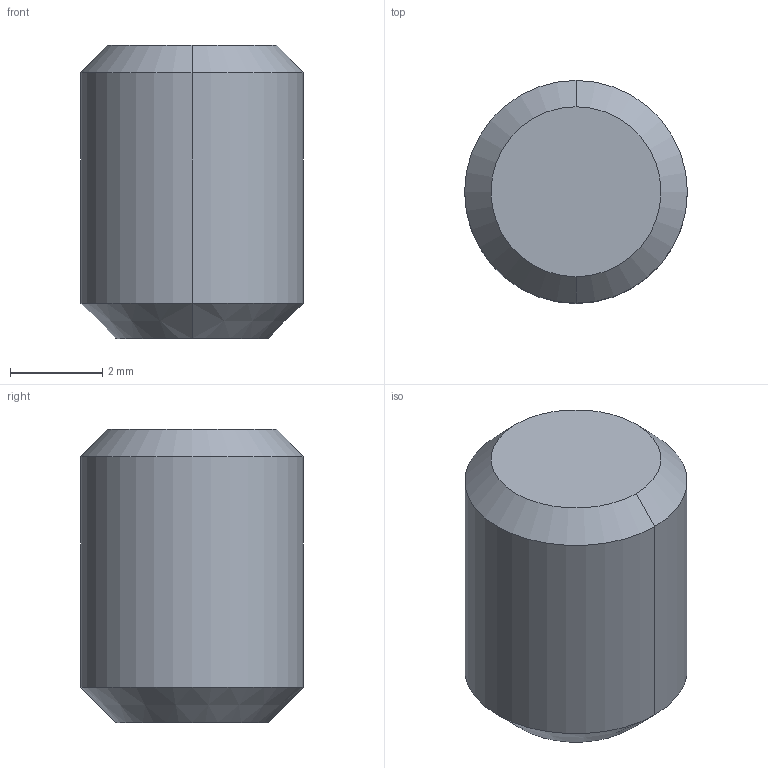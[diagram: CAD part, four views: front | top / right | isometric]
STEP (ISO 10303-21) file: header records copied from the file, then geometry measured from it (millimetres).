
FILE_DESCRIPTION (( 'STEP AP214' ), '1' );
FILE_NAME ('RC4EMLS0187.STEP', '2019-02-08T14:55:55', ( '' ), ( '' ), 'SwSTEP 2.0', 'SolidWorks 2019', '' );
FILE_SCHEMA (( 'AUTOMOTIVE_DESIGN' ));
Length unit declared in the file: inch
Products named in the file (1): RC4EMLS0187
Bounding box: 4.83 x 4.83 x 6.35 mm (x, y, z)
Volume: 94.1 mm3; surface area: 141.2 mm2
Topology: 1 solids, 1 shells, 26 faces, 58 edges, 33 vertices
Faces by surface type: plane 14, cone 8, cylinder 4
Entity records: 778 total; most frequent: CARTESIAN_POINT 170, DIRECTION 124, ORIENTED_EDGE 112, EDGE_CURVE 56, AXIS2_PLACEMENT_3D 47, VERTEX_POINT 33, VECTOR 30, LINE 30
